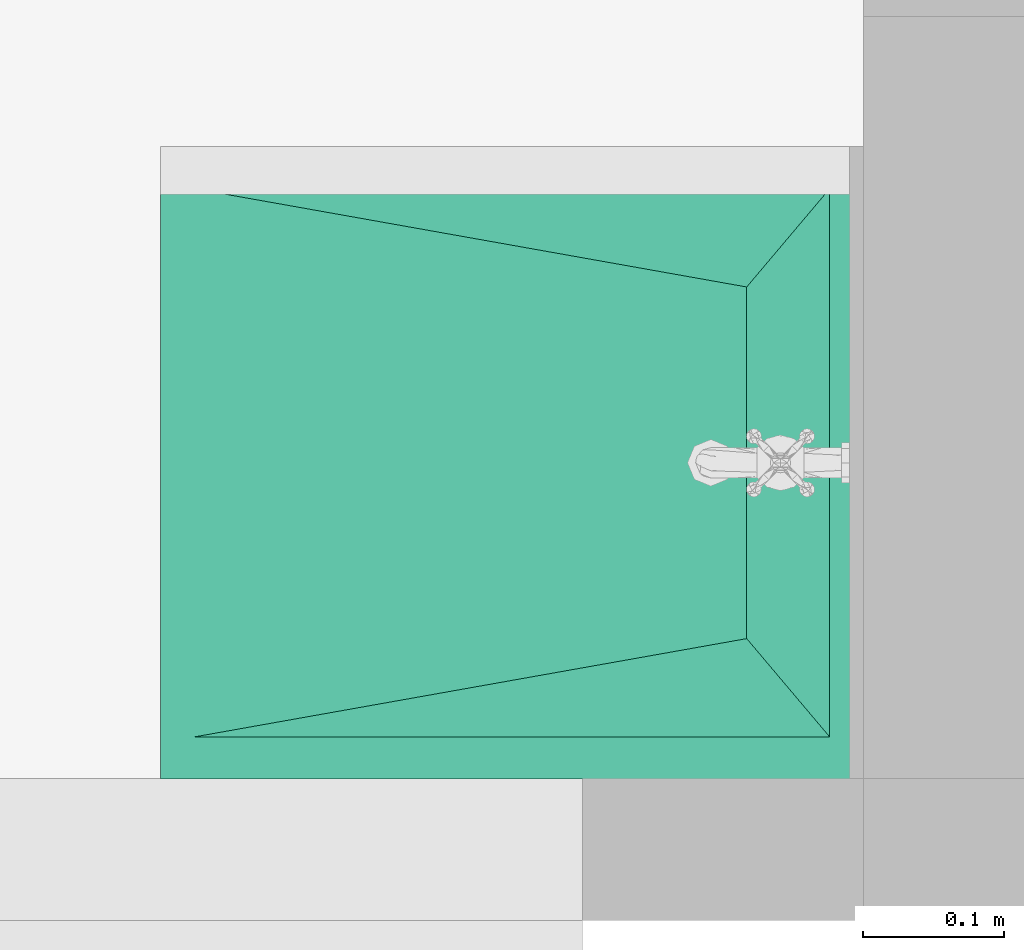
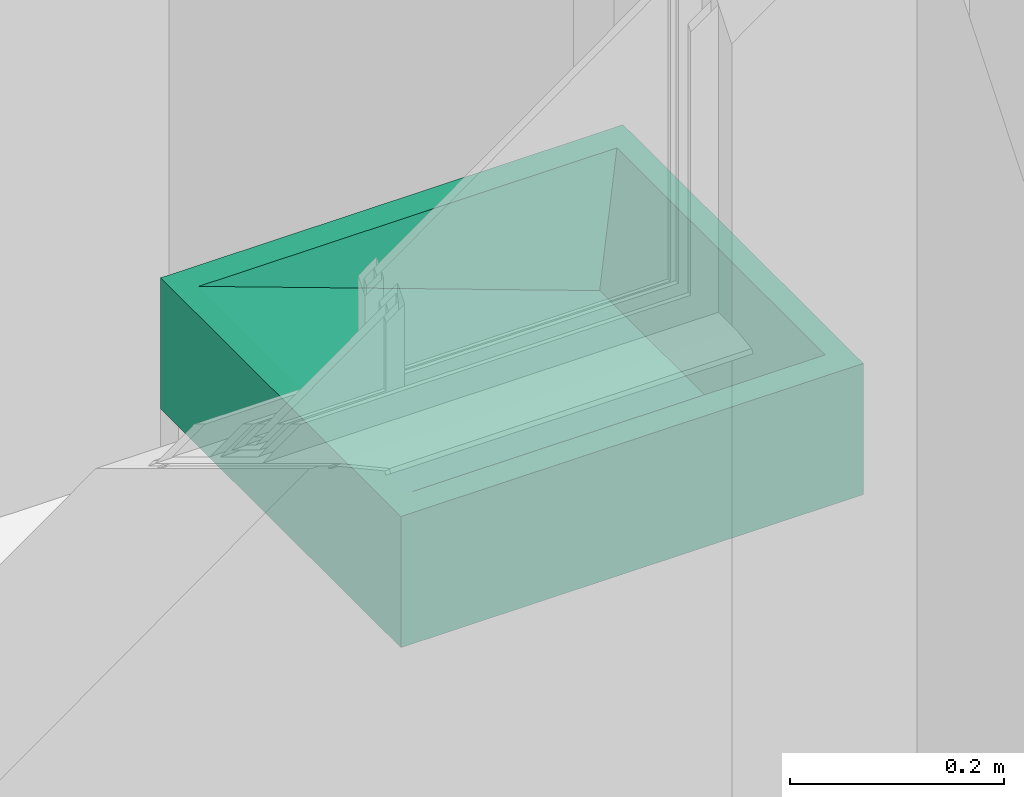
# One storey, part 41 of 48: 1 flow terminal.
"""IFC4 building model written with IfcOpenShell, lengths in metres."""

from ifc_helpers import new_model, entity, si_unit, converted_unit, derived_unit, direction, frame, origin, place, context, subcontext, project, spatial, polygons, source, transform, mapped, material, type_object, type_shapes, element, save


model = new_model("IFC4")

# Units and contexts
model_context = context("Model", 3, precision=1e-05, world=origin(), true_north=direction((6.123031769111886e-17, 1.0)))
body_context = subcontext(model_context, "Body", "Model", "MODEL_VIEW")
ifc_project = project(units=[si_unit("LENGTHUNIT", "METRE"), si_unit("AREAUNIT", "SQUARE_METRE"), si_unit("VOLUMEUNIT", "CUBIC_METRE"), converted_unit("PLANEANGLEUNIT", "DEGREE", entity("IfcRatioMeasure", 0.017453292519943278), si_unit("PLANEANGLEUNIT", "RADIAN"), dimensions=[0, 0, 0, 0, 0, 0, 0]), si_unit("MASSUNIT", "GRAM", prefix="KILO"), derived_unit("MASSDENSITYUNIT", [(si_unit("MASSUNIT", "GRAM", prefix="KILO"), 1), (si_unit("LENGTHUNIT", "METRE"), -3)]), derived_unit("IONCONCENTRATIONUNIT", [(si_unit("MASSUNIT", "GRAM", prefix="KILO"), 1), (si_unit("LENGTHUNIT", "METRE"), -3)]), derived_unit("MOMENTOFINERTIAUNIT", [(si_unit("LENGTHUNIT", "METRE"), 4)]), si_unit("TIMEUNIT", "SECOND"), si_unit("FREQUENCYUNIT", "HERTZ"), si_unit("THERMODYNAMICTEMPERATUREUNIT", "DEGREE_CELSIUS"), derived_unit("THERMALTRANSMITTANCEUNIT", [(si_unit("MASSUNIT", "GRAM", prefix="KILO"), 1), (si_unit("THERMODYNAMICTEMPERATUREUNIT", "KELVIN"), -1), (si_unit("TIMEUNIT", "SECOND"), -3)]), derived_unit("THERMALCONDUCTANCEUNIT", [(si_unit("MASSUNIT", "GRAM", prefix="KILO"), 1), (si_unit("THERMODYNAMICTEMPERATUREUNIT", "KELVIN"), -1), (si_unit("TIMEUNIT", "SECOND"), -3), (si_unit("LENGTHUNIT", "METRE"), 1)]), derived_unit("VOLUMETRICFLOWRATEUNIT", [(si_unit("LENGTHUNIT", "METRE"), 3), (si_unit("TIMEUNIT", "SECOND"), -1)]), derived_unit("MASSFLOWRATEUNIT", [(si_unit("MASSUNIT", "GRAM", prefix="KILO"), 1), (si_unit("TIMEUNIT", "SECOND"), -1)]), derived_unit("ROTATIONALFREQUENCYUNIT", [(si_unit("TIMEUNIT", "SECOND"), -1)]), si_unit("ELECTRICCURRENTUNIT", "AMPERE"), si_unit("ELECTRICVOLTAGEUNIT", "VOLT"), si_unit("POWERUNIT", "WATT"), si_unit("FORCEUNIT", "NEWTON", prefix="KILO"), si_unit("ILLUMINANCEUNIT", "LUX"), si_unit("LUMINOUSFLUXUNIT", "LUMEN"), si_unit("LUMINOUSINTENSITYUNIT", "CANDELA"), derived_unit("USERDEFINED", [(si_unit("MASSUNIT", "GRAM", prefix="KILO"), -1), (si_unit("LENGTHUNIT", "METRE"), -2), (si_unit("TIMEUNIT", "SECOND"), 3), (si_unit("LUMINOUSFLUXUNIT", "LUMEN"), 1)]), derived_unit("USERDEFINED", [(si_unit("MASSUNIT", "GRAM", prefix="KILO"), 1), (si_unit("TIMEUNIT", "SECOND"), -3), (si_unit("LENGTHUNIT", "METRE"), 3), (si_unit("ELECTRICCURRENTUNIT", "AMPERE"), -2)]), derived_unit("SOUNDPOWERUNIT", [(si_unit("MASSUNIT", "GRAM", prefix="KILO"), 1), (si_unit("TIMEUNIT", "SECOND"), -3), (si_unit("LENGTHUNIT", "METRE"), 2)]), derived_unit("SOUNDPRESSUREUNIT", [(si_unit("MASSUNIT", "GRAM", prefix="KILO"), 1), (si_unit("LENGTHUNIT", "METRE"), -1), (si_unit("TIMEUNIT", "SECOND"), -2)]), derived_unit("LINEARVELOCITYUNIT", [(si_unit("LENGTHUNIT", "METRE"), 1), (si_unit("TIMEUNIT", "SECOND"), -1)]), si_unit("PRESSUREUNIT", "PASCAL"), derived_unit("USERDEFINED", [(si_unit("MASSUNIT", "GRAM", prefix="KILO"), 1), (si_unit("LENGTHUNIT", "METRE"), -2), (si_unit("TIMEUNIT", "SECOND"), -2)]), derived_unit("LINEARFORCEUNIT", [(si_unit("MASSUNIT", "GRAM", prefix="KILO"), 1), (si_unit("TIMEUNIT", "SECOND"), -2)]), derived_unit("PLANARFORCEUNIT", [(si_unit("MASSUNIT", "GRAM", prefix="KILO"), 1), (si_unit("LENGTHUNIT", "METRE"), -1), (si_unit("TIMEUNIT", "SECOND"), -2)]), derived_unit("SPECIFICHEATCAPACITYUNIT", [(si_unit("THERMODYNAMICTEMPERATUREUNIT", "KELVIN"), -1), (si_unit("LENGTHUNIT", "METRE"), 2), (si_unit("TIMEUNIT", "SECOND"), -2)]), derived_unit("HEATINGVALUEUNIT", [(si_unit("LENGTHUNIT", "METRE"), 2), (si_unit("TIMEUNIT", "SECOND"), -2)]), derived_unit("VAPORPERMEABILITYUNIT", [(si_unit("LENGTHUNIT", "METRE"), -1), (si_unit("TIMEUNIT", "SECOND"), 1)]), derived_unit("DYNAMICVISCOSITYUNIT", [(si_unit("MASSUNIT", "GRAM", prefix="KILO"), 1), (si_unit("TIMEUNIT", "SECOND"), -1), (si_unit("LENGTHUNIT", "METRE"), -1)]), derived_unit("THERMALEXPANSIONCOEFFICIENTUNIT", [(si_unit("THERMODYNAMICTEMPERATUREUNIT", "KELVIN"), -1)]), derived_unit("MODULUSOFELASTICITYUNIT", [(si_unit("MASSUNIT", "GRAM", prefix="KILO"), 1), (si_unit("LENGTHUNIT", "METRE"), -1), (si_unit("TIMEUNIT", "SECOND"), -2)]), derived_unit("ISOTHERMALMOISTURECAPACITYUNIT", [(si_unit("LENGTHUNIT", "METRE"), 3), (si_unit("MASSUNIT", "GRAM", prefix="KILO"), -1)]), derived_unit("MOISTUREDIFFUSIVITYUNIT", [(si_unit("TIMEUNIT", "SECOND"), -1), (si_unit("LENGTHUNIT", "METRE"), 2)])], contexts=[model_context])

# Site, building, storey, space
site_placement = place(None, origin())
site = spatial("IfcSite", under=ifc_project, at=site_placement, Name="Default", CompositionType="ELEMENT")
building_placement = place(site_placement, origin())
building = spatial("IfcBuilding", under=site, at=building_placement, CompositionType="ELEMENT")
storey_placement = place(building_placement, frame((0.0, 0.0, 4.700000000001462)))
storey = spatial("IfcBuildingStorey", under=building, at=storey_placement, Name="Nivel 3", CompositionType="ELEMENT", Elevation=4.700000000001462)
space_placement = place(storey_placement, origin())
space = spatial("IfcSpace", under=storey, at=space_placement, Name="161", CompositionType="ELEMENT", PredefinedType="SPACE")

# Flow terminal
ifc_material = material(Name="Lavadero", Category="Materials")
distribution_element_type = type_object("IfcDistributionElementType", Name="D2010 - Lavadero - Granito:D2010 - Lavadero - Concreto", material=ifc_material)
shared_shape = source(origin(), body_context, "Body", "Tessellation", [
    polygons([(0.03000000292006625, 0.023999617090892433, 0.15000000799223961), (0.09992663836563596, 0.41697036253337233, 0.05000015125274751), (0.02999997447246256, 0.47600003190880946, 0.15000000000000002), (0.3500731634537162, 0.41697028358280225, 0.050000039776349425), (0.4199999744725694, 0.47600003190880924, 0.15000000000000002), (0.4199999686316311, 0.023999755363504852, 0.15000001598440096), (0.4499999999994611, -3.383959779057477e-17, 0.0), (0.4499999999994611, 0.5000004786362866, 0.0), (0.4499999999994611, 0.5000004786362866, 0.15000000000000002), (0.4499999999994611, -3.383959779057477e-17, 0.15000000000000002), (6.767919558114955e-17, 3.383959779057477e-17, 0.15000000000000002), (6.767919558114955e-17, 3.383959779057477e-17, 0.0), (6.767919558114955e-17, 0.5000004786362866, 0.15000000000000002), (6.767919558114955e-17, 0.5000004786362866, 0.0), (0.4199999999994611, 0.019999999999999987, 0.0), (0.4199999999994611, 0.4800004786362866, 0.0), (0.030000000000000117, 0.4800004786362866, 0.0), (0.030000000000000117, 0.019999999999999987, 0.0), (0.4199999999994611, 0.019999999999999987, 0.034883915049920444), (0.4199999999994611, 0.4800004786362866, 0.034883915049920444), (0.030000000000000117, 0.019999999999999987, 0.034883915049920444), (0.030000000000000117, 0.4800004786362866, 0.034883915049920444)], [[[1, 2, 3]], [[3, 2, 4, 5]], [[5, 4, 6]], [[2, 1, 6, 4]], [[7, 8, 9, 10]], [[7, 10, 11, 12]], [[12, 11, 13, 14]], [[9, 8, 14, 13]], [[8, 7, 12, 14], [15, 16, 17, 18]], [[10, 9, 13, 11], [1, 3, 5, 6]], [[19, 20, 16, 15]], [[21, 19, 15, 18]], [[22, 21, 18, 17]], [[20, 22, 17, 16]], [[20, 19, 21, 22]]], closed=True),
])
type_shapes(distribution_element_type, [shared_shape])
flow_terminal_placement = place(space_placement, frame((14.057499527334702, -4.675000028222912, 0.7799999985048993), z_axis=(0.0, 0.0, 1.0), x_axis=(0.0, -1.0, 0.0)))
element("IfcFlowTerminal", 1, at=flow_terminal_placement, inside=space, type_object=distribution_element_type, material=ifc_material, Name="D2010 - Lavadero - Granito:D2010 - Lavadero - Concreto", ObjectType="D2010 - Lavadero - Granito:D2010 - Lavadero - Concreto", context=body_context, shape_type="MappedRepresentation", body=[
    mapped(shared_shape, transform((0.0, 0.0, 0.0), scale=1.0)),
])

save(model, "model.ifc")
